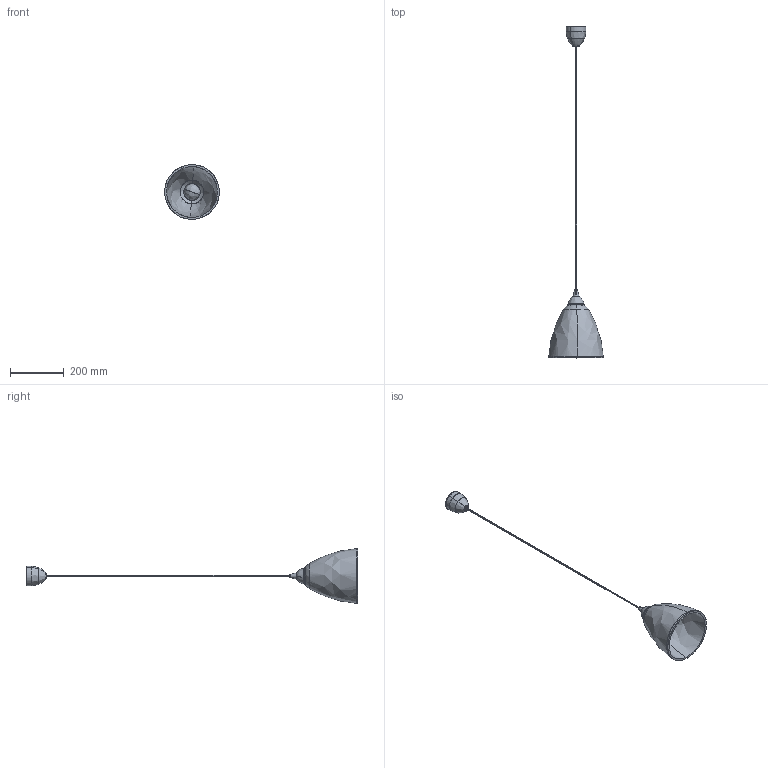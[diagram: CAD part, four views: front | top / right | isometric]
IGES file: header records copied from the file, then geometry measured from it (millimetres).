
Start section: SolidWorks IGES file using analytic representation for surfaces
Global section: file name: E:\3D lampy\Single\Single 3833\Single_3833.IGS; native system: SolidWorks 2016; preprocessor: SolidWorks 2016; author: Asia; date: 171004.091923; units: millimetre
Bounding box: 202.89 x 1232.19 x 202.9 mm (x, y, z)
Surface area: 346184.2 mm2 (no closed solid volume)
Topology: 0 solids, 0 shells, 269 faces, 4951 edges, 4931 vertices
Faces by surface type: revolution 136, bspline 133
